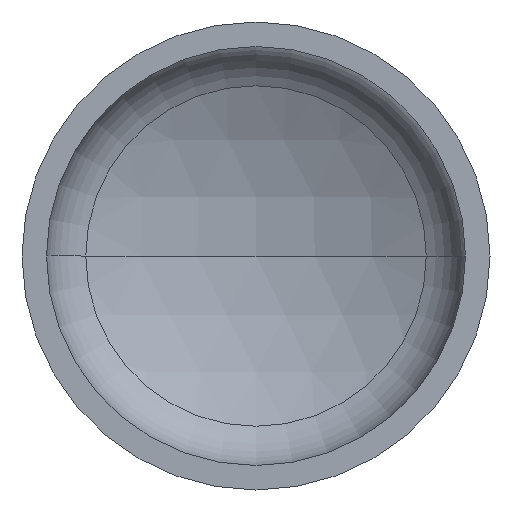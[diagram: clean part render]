
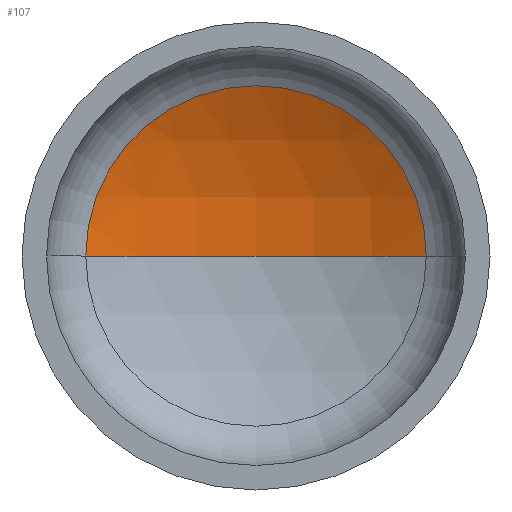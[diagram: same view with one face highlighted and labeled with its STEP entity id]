
A CAD part, front view. The second image highlights one B-rep face of the part: STEP entity #107.
In plain terms, the highlighted spherical face has radius 1040 mm.
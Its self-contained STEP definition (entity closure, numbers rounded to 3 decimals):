
#15 = EDGE_CURVE ( 'NONE', #89, #158, #71, .T. ) ;
#16 = EDGE_LOOP ( 'NONE', ( #272, #276, #105 ) ) ;
#71 = CIRCLE ( 'NONE', #215, 472.952 ) ;
#89 = VERTEX_POINT ( 'NONE', #182 ) ;
#101 = AXIS2_PLACEMENT_3D ( 'NONE', #330, #259, #170 ) ;
#105 = ORIENTED_EDGE ( 'NONE', *, *, #15, .T. ) ;
#107 = ADVANCED_FACE ( 'NONE', ( #299 ), #242, .F. ) ;
#109 = DIRECTION ( 'NONE',  ( 0., 0., -1. ) ) ;
#116 = DIRECTION ( 'NONE',  ( -1., 0., 0. ) ) ;
#128 = VERTEX_POINT ( 'NONE', #197 ) ;
#147 = DIRECTION ( 'NONE',  ( 1., 0., 0. ) ) ;
#158 = VERTEX_POINT ( 'NONE', #227 ) ;
#162 = AXIS2_PLACEMENT_3D ( 'NONE', #300, #109, #116 ) ;
#170 = DIRECTION ( 'NONE',  ( 1., 0., 0. ) ) ;
#182 = CARTESIAN_POINT ( 'NONE',  ( 472.952, 298.123, 0. ) ) ;
#197 = CARTESIAN_POINT ( 'NONE',  ( 0., 411.885, 0. ) ) ;
#202 = DIRECTION ( 'NONE',  ( -1., 0., 0. ) ) ;
#212 = CIRCLE ( 'NONE', #162, 1040. ) ;
#215 = AXIS2_PLACEMENT_3D ( 'NONE', #292, #289, #147 ) ;
#227 = CARTESIAN_POINT ( 'NONE',  ( -472.952, 298.123, 0. ) ) ;
#242 = SPHERICAL_SURFACE ( 'NONE', #360, 1040. ) ;
#259 = DIRECTION ( 'NONE',  ( 0., 0., 1. ) ) ;
#272 = ORIENTED_EDGE ( 'NONE', *, *, #325, .F. ) ;
#276 = ORIENTED_EDGE ( 'NONE', *, *, #324, .T. ) ;
#289 = DIRECTION ( 'NONE',  ( 0., -1., 0. ) ) ;
#292 = CARTESIAN_POINT ( 'NONE',  ( 0., 298.123, 0. ) ) ;
#299 = FACE_OUTER_BOUND ( 'NONE', #16, .T. ) ;
#300 = CARTESIAN_POINT ( 'NONE',  ( 0., -628.115, 0. ) ) ;
#301 = DIRECTION ( 'NONE',  ( 0., 0., -1. ) ) ;
#324 = EDGE_CURVE ( 'NONE', #128, #89, #212, .T. ) ;
#325 = EDGE_CURVE ( 'NONE', #128, #158, #397, .T. ) ;
#330 = CARTESIAN_POINT ( 'NONE',  ( 0., -628.115, 0. ) ) ;
#360 = AXIS2_PLACEMENT_3D ( 'NONE', #396, #301, #202 ) ;
#396 = CARTESIAN_POINT ( 'NONE',  ( 0., -628.115, 0. ) ) ;
#397 = CIRCLE ( 'NONE', #101, 1040. ) ;
